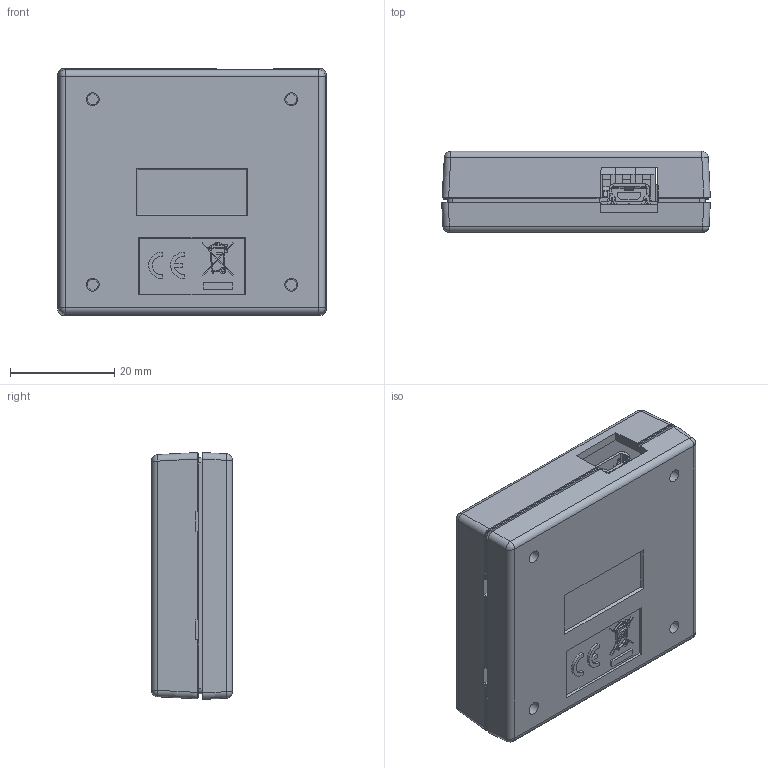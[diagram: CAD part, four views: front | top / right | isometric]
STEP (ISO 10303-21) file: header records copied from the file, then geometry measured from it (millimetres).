
FILE_DESCRIPTION(/* description */ ('Alibre Inc.'),/* implementation_level */ '2;1');
FILE_NAME(/* name */ 'export-1E919590-367C-452C-9219-F9E28BECA738',/* time_stamp */ '2021-09-09T11:16:31-06:00',/* author */ (''),/* organization */ (''),/* preprocessor_version */ 'ST-DEVELOPER v17',/* originating_system */ 'Alibre',/* authorisation */ '');
FILE_SCHEMA (('CONFIG_CONTROL_DESIGN'));
Length unit declared in the file: centimetre
Products named in the file (164): 5844056576; L1; 5844056000; 5844056192; R47; R43; C28; 5844055808; 5844055616; C22; R38; User_Library-SOT-23-5; U11; O1; R46; R45; C23; User_Library-SOT-23-1; U12; R54; R53; R52; R51; C44; U2; C43; R50; R49; R48; R44; C6; C19; R16; R15; C18; C17; C16; C15; U3; User_Library-SOIC-8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
Bounding box: 51.56 x 15.54 x 47.37 mm (x, y, z)
Volume: 15367.4 mm3; surface area: 22950.9 mm2
Topology: 265 solids, 265 shells, 4160 faces, 10199 edges, 6578 vertices
Faces by surface type: plane 3302, cylinder 676, bspline 144, cone 24, sphere 10, torus 4
Full cylindrical faces by diameter (mm): 0.6 x1, 1 x2, 1.321 x8, 3.124 x4, 3.175 x4
Entity records: 77031 total; most frequent: CARTESIAN_POINT 15613, ORIENTED_EDGE 8554, DIRECTION 7530, EDGE_CURVE 4277, VECTOR 3134, LINE 3134, VERTEX_POINT 2747, AXIS2_PLACEMENT_3D 2743
